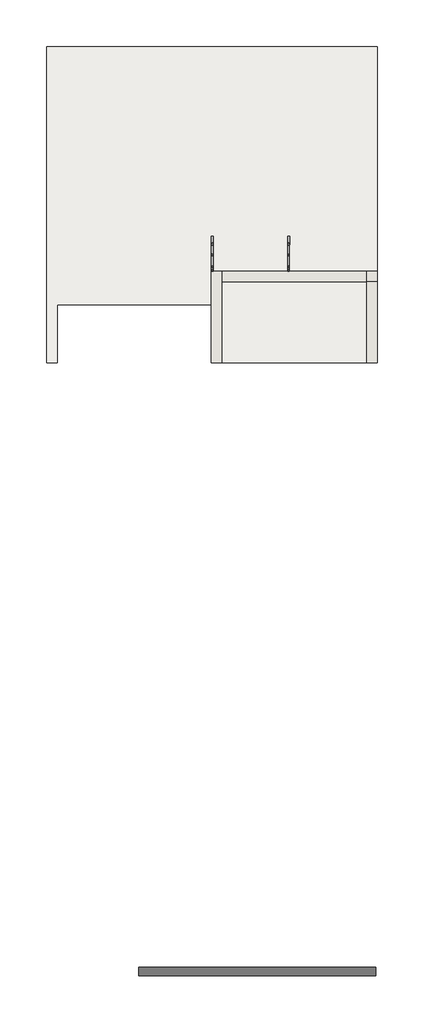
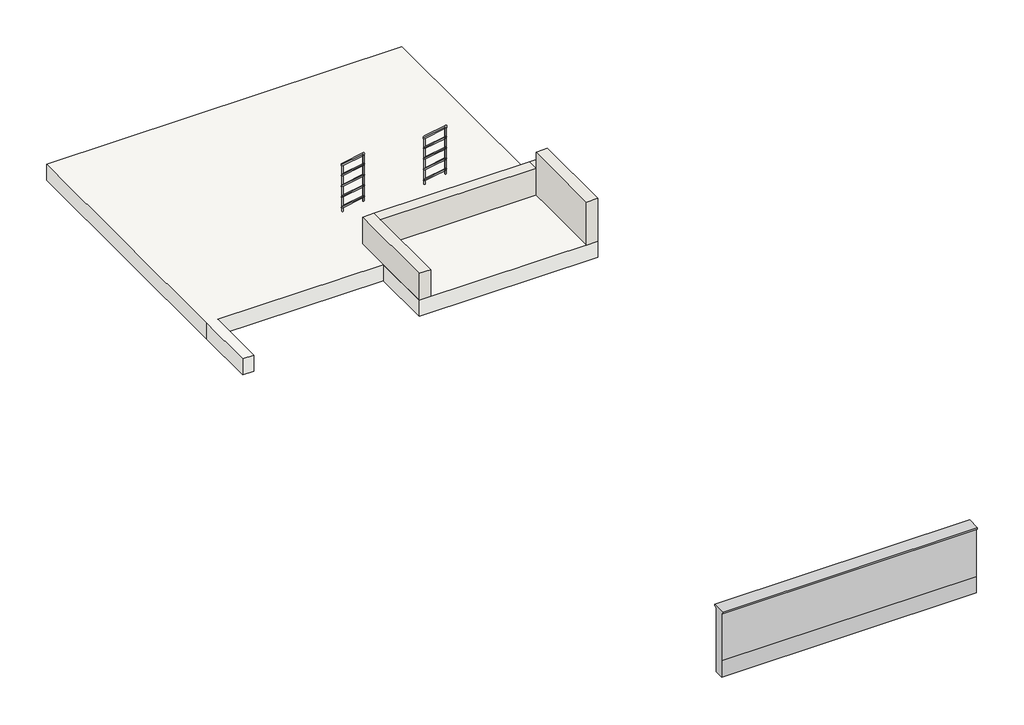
# One storey: 3 walls, 2 railings, 1 proxy, 1 slab.
"""IFC4 building model written with IfcOpenShell, lengths in millimetres."""

from ifc_helpers import new_model, si_unit, frame, origin, place, context, project, spatial, polyline, outline, extrude, faceted_brep, transform, mapped, element, save
from components import railing_900mm_pipe_2_48e39727, railing_900mm_pipe_2_317fbd75

model = new_model("IFC4")

# Units and contexts
model_context = context("Model", 3, world=origin())
ifc_project = project(units=[si_unit("LENGTHUNIT", "METRE", prefix="MILLI")], contexts=[model_context])

# Site, building, storey
site = spatial("IfcSite", under=ifc_project)
building = spatial("IfcBuilding", under=site)
storey = spatial("IfcBuildingStorey", under=building, Name="Dvorek", Elevation=-800.0)

# Proxy
placement = place(None, origin())
element("IfcBuildingElementProxy", 1, Name="Parapetto", ObjectType="Parapetto", at=placement, inside=storey, context=model_context, shape_type="SweptSolid", body=[
    extrude(outline(polyline([(-6901.7671527, -300.0), (-7061.7671527, -300.0), (-7061.7671527, 0.0), (-7061.7671527, 900.0), (-7091.7671527, 900.0), (-7091.7671527, 930.0), (-6851.7671527, 930.0), (-6851.7671527, 900.0), (-6901.7671527, 900.0), (-6901.7671527, 0.0), (-6901.7671527, -300.0)])), frame((-6388.8794248, 0.0, 0.0), z_axis=(1.0, 0.0, 0.0), x_axis=(0.0, 1.0, 0.0)), (0.0, 0.0, 1.0), 4503.5666245),
])

# Railings
railing_900mm_pipe_2_shape = railing_900mm_pipe_2_48e39727(model_context)
element("IfcRailing", 2, ObjectType="900mm Pipe 2", at=placement, inside=storey, context=model_context, shape_type="MappedRepresentation", body=[
    mapped(railing_900mm_pipe_2_shape, transform((0.0, 0.0, 0.0), x_axis=(1.0, 0.0, 0.0), y_axis=(0.0, 1.0, 0.0), z_axis=(0.0, 0.0, 1.0))),
])
railing_900mm_pipe_2_2_shape = railing_900mm_pipe_2_317fbd75(model_context)
element("IfcRailing", 3, ObjectType="900mm Pipe 2", at=placement, inside=storey, context=model_context, shape_type="MappedRepresentation", body=[
    mapped(railing_900mm_pipe_2_2_shape, transform((0.0, 0.0, 0.0), x_axis=(1.0, 0.0, 0.0), y_axis=(0.0, 1.0, 0.0), z_axis=(0.0, 0.0, 1.0))),
])

# Slab
element("IfcSlab", 4, ObjectType="Generic 300mm", at=placement, inside=storey, context=model_context, shape_type="SweptSolid", body=[
    extrude(outline(polyline([(-1861.8266822, 4573.2328473), (-5011.8266822, 4573.2328473), (-5011.8266822, 5673.2328473), (-7936.8266822, 5673.2328473), (-7936.8266822, 4573.2328473), (-8136.8266822, 4573.2328473), (-8136.8266822, 5673.2328473), (-8136.8266822, 10573.2328473), (-1861.8266822, 10573.2328473), (-1861.8266822, 4573.2328473)])), frame((0.0, 0.0, -1100.0), z_axis=(0.0, 0.0, 1.0), x_axis=(1.0, 0.0, 0.0)), (0.0, 0.0, 1.0), 300.0),
])

# Walls
element("IfcWall", 5, ObjectType="Generic - 200mm", at=placement, inside=storey, context=model_context, shape_type="Brep", body=[
    faceted_brep([(-4811.8266822, 4576.7328473, -800.0), (-4811.8266822, 6113.2328473, -800.0), (-4811.8266822, 6313.2328473, -800.0), (-4811.8266822, 6313.2328473, -300.0), (-4811.8266822, 6113.2328473, -300.0), (-4811.8266822, 4576.7328473, -300.0), (-5011.8266822, 4576.7328473, -800.0), (-5011.8266822, 4576.7328473, -300.0), (-5011.8266822, 6313.2328473, -300.0), (-5011.8266822, 6313.2328473, -800.0)], [[[0, 1, 2, 3, 4, 5]], [[6, 7, 8, 9]], [[2, 1, 0, 6, 9]], [[3, 2, 9, 8]], [[0, 5, 7, 6]], [[5, 4, 3, 8, 7]]]),
])
element("IfcWall", 6, ObjectType="Generic - 200mm", at=placement, inside=storey, context=model_context, shape_type="Brep", body=[
    faceted_brep([(-4811.8266822, 6113.2328473, -800.0), (-2061.8266822, 6113.2328473, -800.0), (-1861.8266822, 6113.2328473, -800.0), (-1861.8266822, 6113.2328473, -300.0), (-2061.8266822, 6113.2328473, -300.0), (-4811.8266822, 6113.2328473, -300.0), (-4811.8266822, 6313.2328473, -800.0), (-4811.8266822, 6313.2328473, -300.0), (-2061.8266822, 6313.2328473, -300.0), (-1861.8266822, 6313.2328473, -300.0), (-1861.8266822, 6313.2328473, -800.0)], [[[0, 1, 2, 3, 4, 5]], [[6, 7, 8, 9, 10]], [[2, 1, 0, 6, 10]], [[3, 2, 10, 9]], [[0, 5, 7, 6]], [[4, 3, 9, 8]], [[5, 4, 8, 7]]]),
])
element("IfcWall", 7, ObjectType="Generic - 200mm", at=placement, inside=storey, context=model_context, shape_type="Brep", body=[
    faceted_brep([(-2061.8266822, 6113.2328473, -800.0), (-2061.8266822, 4573.2328473, -800.0), (-2061.8266822, 4573.2328473, 0.0), (-2061.8266822, 6113.2328473, 0.0), (-1861.8266822, 6113.2328473, -800.0), (-1861.8266822, 6113.2328473, -300.0), (-1861.8266822, 6113.2328473, 0.0), (-1861.8266822, 4573.2328473, 0.0), (-1861.8266822, 4573.2328473, -800.0)], [[[0, 1, 2, 3]], [[4, 5, 6, 7, 8]], [[1, 0, 4, 8]], [[3, 2, 7, 6]], [[0, 3, 6, 5, 4]], [[2, 1, 8, 7]]]),
])

save(model, "model.ifc")
